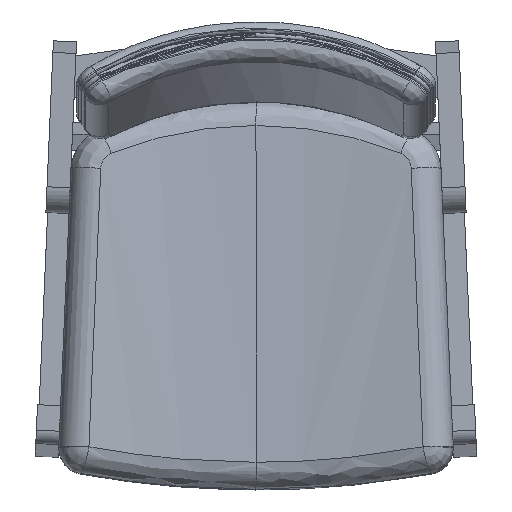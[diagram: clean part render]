
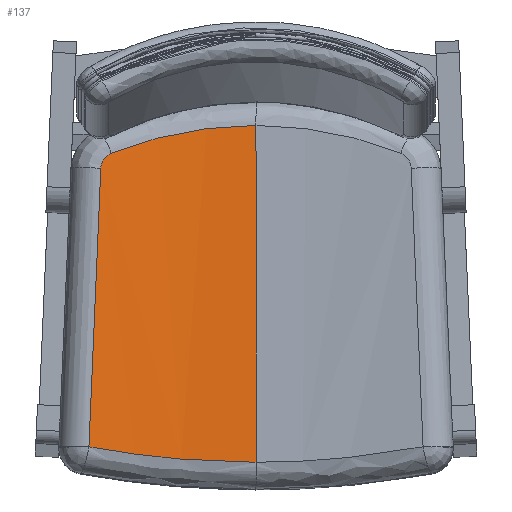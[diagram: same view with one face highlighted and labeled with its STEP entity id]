
A CAD part, top view. The second image highlights one B-rep face of the part: STEP entity #137.
In plain terms, the highlighted free-form (B-spline) face has degree [1, 2] with [2, 3] control points.
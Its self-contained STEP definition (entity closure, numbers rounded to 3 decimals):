
#137=ADVANCED_FACE('',(#382),#3792,.T.);
#382=FACE_OUTER_BOUND('',#627,.T.);
#627=EDGE_LOOP('',(#1171,#1172,#1173,#1174,#1175));
#1171=ORIENTED_EDGE('',*,*,#2215,.F.);
#1172=ORIENTED_EDGE('',*,*,#2203,.F.);
#1173=ORIENTED_EDGE('',*,*,#2202,.F.);
#1174=ORIENTED_EDGE('',*,*,#2219,.F.);
#1175=ORIENTED_EDGE('',*,*,#2226,.T.);
#2202=EDGE_CURVE('',#3368,#3367,#2709,.T.);
#2203=EDGE_CURVE('',#3367,#3369,#2917,.T.);
#2215=EDGE_CURVE('',#3369,#3376,#2924,.T.);
#2219=EDGE_CURVE('',#3377,#3368,#2927,.T.);
#2226=EDGE_CURVE('',#3377,#3376,#2929,.T.);
#2709=(
BOUNDED_CURVE()
B_SPLINE_CURVE(2,(#9315,#9316,#9317),.UNSPECIFIED.,.F.,.F.)
B_SPLINE_CURVE_WITH_KNOTS((3,3),(0.,326.001),.UNSPECIFIED.)
CURVE()
GEOMETRIC_REPRESENTATION_ITEM()
RATIONAL_B_SPLINE_CURVE((1.,1.,1.))
REPRESENTATION_ITEM('')
);
#2917=B_SPLINE_CURVE_WITH_KNOTS('',3,(#9318,#9319,#9320,#9321,#9322,#9323,
#9324,#9325,#9326,#9327),.UNSPECIFIED.,.F.,.F.,(4,1,1,1,1,1,1,4),(0.,3.277,
6.554,9.832,13.109,16.386,19.663,
22.94),.UNSPECIFIED.);
#2924=B_SPLINE_CURVE_WITH_KNOTS('',3,(#9400,#9401,#9402,#9403,#9404,#9405,
#9406),.UNSPECIFIED.,.F.,.F.,(4,1,1,1,4),(0.,49.706,74.559,
124.266,173.972),.UNSPECIFIED.);
#2927=B_SPLINE_CURVE_WITH_KNOTS('',3,(#9422,#9423,#9424,#9425,#9426,#9427),
 .UNSPECIFIED.,.F.,.F.,(4,1,1,4),(0.,56.322,112.644,197.127),
 .UNSPECIFIED.);
#2929=B_SPLINE_CURVE_WITH_KNOTS('',1,(#9453,#9454),.UNSPECIFIED.,.F.,.F.,
(2,2),(0.,393.78),.UNSPECIFIED.);
#3367=VERTEX_POINT('',#9102);
#3368=VERTEX_POINT('',#9103);
#3369=VERTEX_POINT('',#9104);
#3376=VERTEX_POINT('',#9111);
#3377=VERTEX_POINT('',#9112);
#3792=(
BOUNDED_SURFACE()
B_SPLINE_SURFACE(1,2,((#8992,#8993,#8994),(#8995,#8996,#8997)),
 .UNSPECIFIED.,.F.,.F.,.F.)
B_SPLINE_SURFACE_WITH_KNOTS((2,2),(3,3),(0.,393.78),(0.,196.47),
 .UNSPECIFIED.)
GEOMETRIC_REPRESENTATION_ITEM()
RATIONAL_B_SPLINE_SURFACE(((1.,0.996,1.),(1.,0.996,1.)))
REPRESENTATION_ITEM('')
SURFACE()
);
#8992=CARTESIAN_POINT('',(1.066,-240.459,433.725));
#8993=CARTESIAN_POINT('',(-97.169,-240.459,433.725));
#8994=CARTESIAN_POINT('',(-193.983,-239.588,450.349));
#8995=CARTESIAN_POINT('',(1.066,152.781,413.116));
#8996=CARTESIAN_POINT('',(-97.169,152.781,413.116));
#8997=CARTESIAN_POINT('',(-193.983,153.652,429.74));
#9102=CARTESIAN_POINT('',(-180.124,102.764,430.108));
#9103=CARTESIAN_POINT('',(-193.983,-222.368,449.447));
#9104=CARTESIAN_POINT('',(-167.838,120.359,427.293));
#9111=CARTESIAN_POINT('',(1.066,152.781,413.116));
#9112=CARTESIAN_POINT('',(1.066,-240.459,433.725));
#9315=CARTESIAN_POINT('',(-193.983,-222.368,449.447));
#9316=CARTESIAN_POINT('',(-187.061,-59.969,439.744));
#9317=CARTESIAN_POINT('',(-180.124,102.764,430.108));
#9318=CARTESIAN_POINT('',(-180.124,102.764,430.108));
#9319=CARTESIAN_POINT('',(-180.077,103.86,430.043));
#9320=CARTESIAN_POINT('',(-179.807,106.044,429.886));
#9321=CARTESIAN_POINT('',(-178.882,109.2,429.573));
#9322=CARTESIAN_POINT('',(-177.466,112.149,429.195));
#9323=CARTESIAN_POINT('',(-175.599,114.812,428.763));
#9324=CARTESIAN_POINT('',(-173.335,117.12,428.292));
#9325=CARTESIAN_POINT('',(-170.735,119.013,427.796));
#9326=CARTESIAN_POINT('',(-168.825,119.966,427.46));
#9327=CARTESIAN_POINT('',(-167.838,120.359,427.293));
#9400=CARTESIAN_POINT('',(-167.838,120.359,427.293));
#9401=CARTESIAN_POINT('',(-152.617,126.428,424.714));
#9402=CARTESIAN_POINT('',(-129.248,134.316,421.299));
#9403=CARTESIAN_POINT('',(-89.294,144.275,416.92));
#9404=CARTESIAN_POINT('',(-48.526,150.982,413.926));
#9405=CARTESIAN_POINT('',(-15.465,152.781,413.116));
#9406=CARTESIAN_POINT('',(1.066,152.781,413.116));
#9422=CARTESIAN_POINT('',(1.066,-240.459,433.725));
#9423=CARTESIAN_POINT('',(-17.691,-240.459,433.725));
#9424=CARTESIAN_POINT('',(-55.206,-239.462,434.592));
#9425=CARTESIAN_POINT('',(-120.542,-234.246,439.125));
#9426=CARTESIAN_POINT('',(-166.653,-227.476,445.009));
#9427=CARTESIAN_POINT('',(-193.983,-222.368,449.447));
#9453=CARTESIAN_POINT('',(1.066,-240.459,433.725));
#9454=CARTESIAN_POINT('',(1.066,152.781,413.116));
